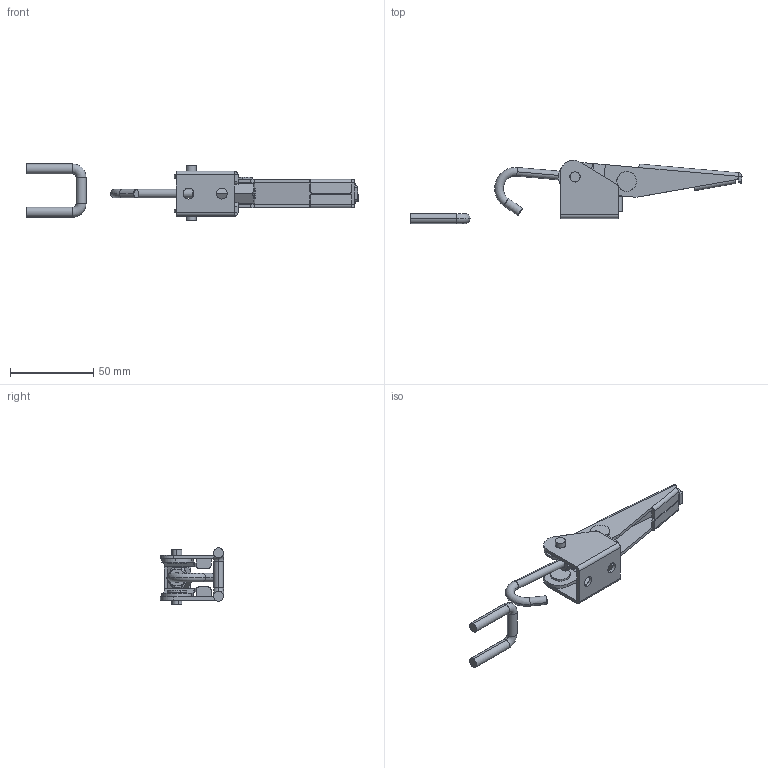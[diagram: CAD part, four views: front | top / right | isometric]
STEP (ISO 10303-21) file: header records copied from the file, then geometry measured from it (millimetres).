
FILE_DESCRIPTION (( 'STEP AP214' ), '1' );
FILE_NAME ('ISK-FA1100.STEP', '2015-06-30T06:58:59', ( '' ), ( '' ), 'SwSTEP 2.0', 'SolidWorks 2015', '' );
FILE_SCHEMA (( 'AUTOMOTIVE_DESIGN' ));
Length unit declared in the file: millimetre
Products named in the file (9): Hook; Handle-2; Base; ISK-FA1100; thin head rivets gb_GB_CONNECTING_PIECE_RIVET_THR 6X17; thin head rivets gb_GB_CONNECTING_PIECE_RIVET_THR 6X7; Upart; hexagon nut_2_jis_JIS B 1181 Hexagon nut - Class 2 Finished M6 --N; H_nut M6L32
Assembly tree (9 placements, depth 2):
  ISK-FA1100
    Base
    Handle-2
    Hook
    H_nut M6L32
    hexagon nut_2_jis_JIS B 1181 Hexagon nut - Class 2 Finished M6 --N
    Upart
    thin head rivets gb_GB_CONNECTING_PIECE_RIVET_THR 6X7  x2
    thin head rivets gb_GB_CONNECTING_PIECE_RIVET_THR 6X17
Bounding box: 199.17 x 37.89 x 33.7 mm (x, y, z)
Volume: 22926.8 mm3; surface area: 22495.7 mm2
Topology: 9 solids, 9 shells, 273 faces, 629 edges, 371 vertices
Faces by surface type: plane 131, cylinder 92, cone 32, torus 12, sphere 6
Entity records: 8080 total; most frequent: CARTESIAN_POINT 1622, DIRECTION 1344, ORIENTED_EDGE 1196, EDGE_CURVE 598, AXIS2_PLACEMENT_3D 516, VERTEX_POINT 352, LINE 312, VECTOR 312
